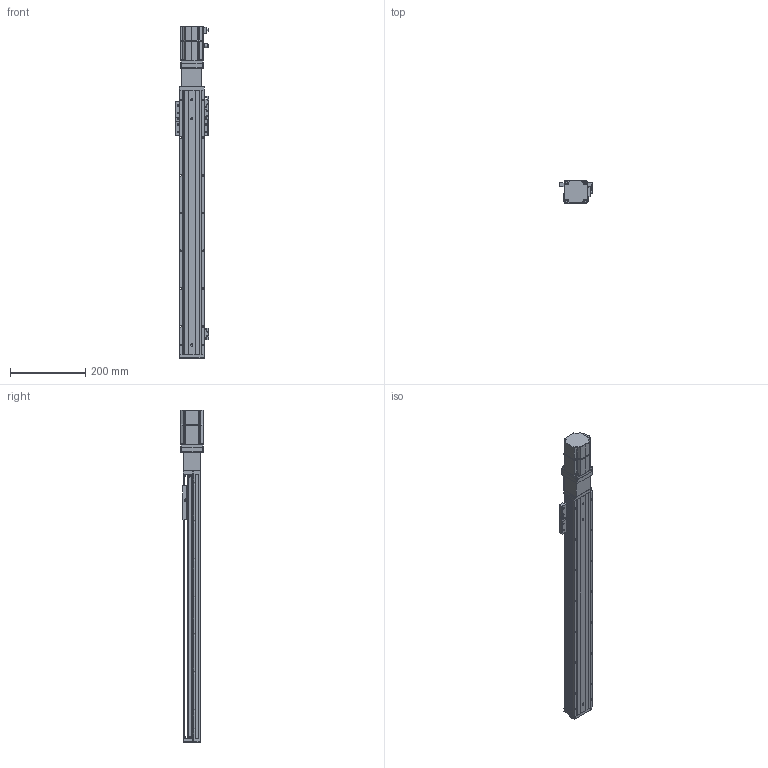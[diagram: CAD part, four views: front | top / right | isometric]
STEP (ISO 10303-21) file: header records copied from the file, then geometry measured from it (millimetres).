
FILE_DESCRIPTION (( 'STEP AP203' ), '1' );
FILE_NAME ('KTHAL60-550-BC-M20-C4L.step', '2022-12-16T01:58:52', ( '微软用户' ), ( '微软中国' ), 'SwSTEP 2.0', 'SolidWorks 2020', '' );
FILE_SCHEMA (( 'CONFIG_CONTROL_DESIGN' ));
Length unit declared in the file: millimetre
Products named in the file (18): CTHA60-021; CTHA60-006-3_M20B; GBT 70.1-M4×16; _X2_4E0983F1_X0_200W_1; GBT77-2000M3-3; KTHAL60-550-BC-M20-C4L; GB¨uT 70.2-M3¡Á5_M3¡Á6; KTHA60-001_700; GBT 70.1-M3℅6; GBT 70.3-M3℅6; KTHLA60-002; CTHA60-016; EE_SX911P_R; KTHA60-004; CTHA60-027; CTHA60-017; KTHA60-005; CTHA60-013
Assembly tree (48 placements, depth 2):
  KTHAL60-550-BC-M20-C4L
    KTHA60-001_700
    KTHLA60-002
    KTHA60-004
    KTHA60-005
    GB¨uT 70.2-M3¡Á5_M3¡Á6  x5
    GBT 70.3-M3℅6  x6
    EE_SX911P_R  x3
    CTHA60-017  x3
    CTHA60-021  x2
    GBT 70.1-M4×16  x8
    GBT77-2000M3-3  x6
    GBT 70.1-M3℅6  x6
    CTHA60-016
    CTHA60-027
    CTHA60-013
    CTHA60-006-3_M20B
    _X2_4E0983F1_X0_200W_1
Bounding box: 87.82 x 62.42 x 879.7 mm (x, y, z)
Volume: 1751121.1 mm3; surface area: 413747.5 mm2
Topology: 51 solids, 51 shells, 2326 faces, 5523 edges, 3385 vertices
Faces by surface type: plane 1261, cylinder 609, cone 295, torus 78, bspline 69, sphere 14
Entity records: 42419 total; most frequent: CARTESIAN_POINT 8166, DIRECTION 6678, ORIENTED_EDGE 6442, EDGE_CURVE 3221, AXIS2_PLACEMENT_3D 2289, VECTOR 2100, LINE 2100, VERTEX_POINT 2007
